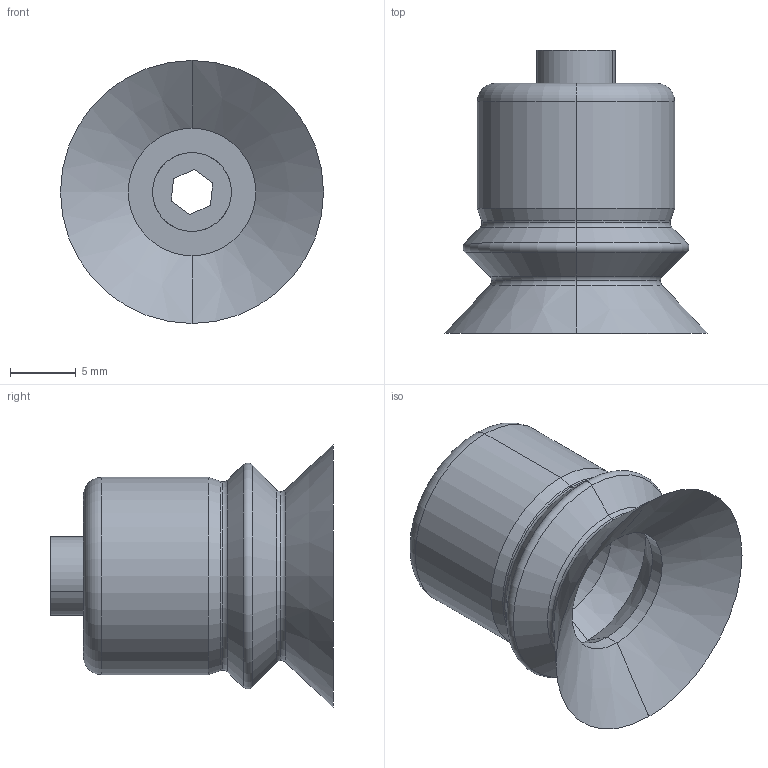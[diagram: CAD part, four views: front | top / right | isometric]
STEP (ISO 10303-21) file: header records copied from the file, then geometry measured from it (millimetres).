
FILE_DESCRIPTION (( 'STEP AP203' ), '1' );
FILE_NAME ('00023811 - 20MM VACUUM CUP ASSY.step', '2013-04-05T16:25:24', ( '' ), ( '' ), 'SwSTEP 2.0', 'SolidWorks 2012', '' );
FILE_SCHEMA (( 'CONFIG_CONTROL_DESIGN' ));
Length unit declared in the file: millimetre
Products named in the file (1): 00023811 - 20MM VACUUM CUP ASSY
Bounding box: 20 x 21.5 x 20 mm (x, y, z)
Surface area: 1987.2 mm2 (no closed solid volume)
Topology: 0 solids, 2 shells, 42 faces, 92 edges, 52 vertices
Faces by surface type: cone 14, torus 12, cylinder 8, plane 8
Entity records: 1214 total; most frequent: DIRECTION 230, CARTESIAN_POINT 187, ORIENTED_EDGE 172, AXIS2_PLACEMENT_3D 95, EDGE_CURVE 92, CIRCLE 52, VERTEX_POINT 52, EDGE_LOOP 44
